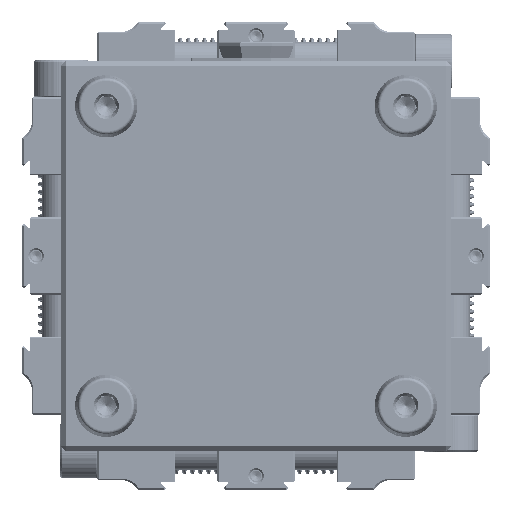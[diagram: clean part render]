
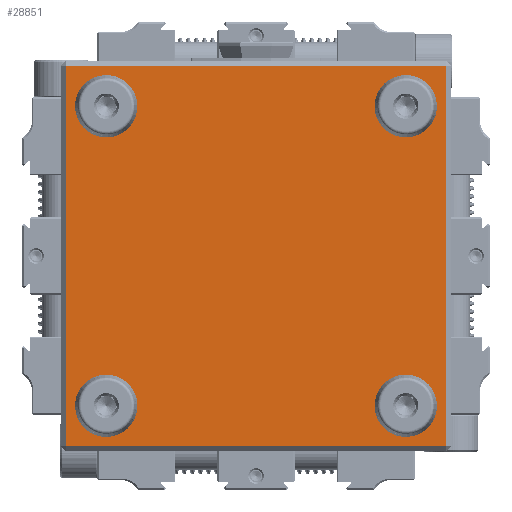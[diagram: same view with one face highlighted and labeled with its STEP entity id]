
A CAD part, front view. The second image highlights one B-rep face of the part: STEP entity #28851.
In plain terms, the highlighted planar face has unit normal (0, -1, 0).
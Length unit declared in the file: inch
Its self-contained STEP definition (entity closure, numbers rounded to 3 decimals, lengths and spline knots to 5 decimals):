
#157 = DIRECTION ( 'NONE',  ( 0., 0., -1. ) ) ;
#269 = CARTESIAN_POINT ( 'NONE',  ( -2.40063, 0., 2.40063 ) ) ;
#1139 = EDGE_CURVE ( 'NONE', #50091, #3057, #31754, .T. ) ;
#1483 = CARTESIAN_POINT ( 'NONE',  ( 2.40063, 0., 2.40063 ) ) ;
#2443 = VERTEX_POINT ( 'NONE', #7335 ) ;
#3057 = VERTEX_POINT ( 'NONE', #1483 ) ;
#3349 = ORIENTED_EDGE ( 'NONE', *, *, #45777, .F. ) ;
#3853 = CARTESIAN_POINT ( 'NONE',  ( 2.40063, 0., -2.40063 ) ) ;
#3939 = EDGE_CURVE ( 'NONE', #29596, #4861, #25966, .T. ) ;
#4649 = EDGE_CURVE ( 'NONE', #44140, #2443, #36877, .T. ) ;
#4861 = VERTEX_POINT ( 'NONE', #34180 ) ;
#5463 = ORIENTED_EDGE ( 'NONE', *, *, #4649, .F. ) ;
#5802 = LINE ( 'NONE', #49083, #37217 ) ;
#6266 = AXIS2_PLACEMENT_3D ( 'NONE', #21102, #42619, #37519 ) ;
#7335 = CARTESIAN_POINT ( 'NONE',  ( 1.88976, 0., -2.20511 ) ) ;
#7682 = DIRECTION ( 'NONE',  ( 0., 0., -1. ) ) ;
#8999 = EDGE_CURVE ( 'NONE', #4861, #29596, #27143, .T. ) ;
#9426 = AXIS2_PLACEMENT_3D ( 'NONE', #42747, #46738, #33955 ) ;
#10839 = DIRECTION ( 'NONE',  ( -1., 0., 0. ) ) ;
#11475 = CARTESIAN_POINT ( 'NONE',  ( -1.88976, 0., -2.20511 ) ) ;
#11502 = AXIS2_PLACEMENT_3D ( 'NONE', #19811, #32551, #37362 ) ;
#12197 = FACE_BOUND ( 'NONE', #18958, .T. ) ;
#12708 = EDGE_CURVE ( 'NONE', #46591, #50091, #5802, .T. ) ;
#12766 = CARTESIAN_POINT ( 'NONE',  ( 0., 0., 0. ) ) ;
#14101 = CARTESIAN_POINT ( 'NONE',  ( 1.88976, 0., -1.57441 ) ) ;
#14275 = ORIENTED_EDGE ( 'NONE', *, *, #43906, .T. ) ;
#15436 = ORIENTED_EDGE ( 'NONE', *, *, #8999, .F. ) ;
#15514 = EDGE_LOOP ( 'NONE', ( #35270, #22596 ) ) ;
#15757 = VECTOR ( 'NONE', #44749, 39.37008 ) ;
#16222 = LINE ( 'NONE', #33465, #55842 ) ;
#16827 = AXIS2_PLACEMENT_3D ( 'NONE', #50678, #24919, #42182 ) ;
#16849 = DIRECTION ( 'NONE',  ( 0., -1., 0. ) ) ;
#17009 = AXIS2_PLACEMENT_3D ( 'NONE', #55132, #30182, #33569 ) ;
#18958 = EDGE_LOOP ( 'NONE', ( #3349, #5463 ) ) ;
#19056 = CARTESIAN_POINT ( 'NONE',  ( -1.88976, 0., -1.88976 ) ) ;
#19811 = CARTESIAN_POINT ( 'NONE',  ( -1.88976, 0., 1.88976 ) ) ;
#20249 = EDGE_CURVE ( 'NONE', #55146, #40581, #45992, .T. ) ;
#20790 = EDGE_LOOP ( 'NONE', ( #36605, #39550, #14275, #49768 ) ) ;
#21102 = CARTESIAN_POINT ( 'NONE',  ( -1.88976, 0., -1.88976 ) ) ;
#21464 = VERTEX_POINT ( 'NONE', #24026 ) ;
#21664 = CARTESIAN_POINT ( 'NONE',  ( 1.88976, 0., 1.88976 ) ) ;
#22552 = CARTESIAN_POINT ( 'NONE',  ( -1.88976, 0., -1.57441 ) ) ;
#22596 = ORIENTED_EDGE ( 'NONE', *, *, #20249, .F. ) ;
#23358 = ORIENTED_EDGE ( 'NONE', *, *, #3939, .F. ) ;
#23885 = CIRCLE ( 'NONE', #9426, 0.31535 ) ;
#23908 = DIRECTION ( 'NONE',  ( 1., 0., 0. ) ) ;
#23940 = DIRECTION ( 'NONE',  ( 0., 0., -1. ) ) ;
#24026 = CARTESIAN_POINT ( 'NONE',  ( -1.88976, 0., 1.57441 ) ) ;
#24870 = VERTEX_POINT ( 'NONE', #44874 ) ;
#24919 = DIRECTION ( 'NONE',  ( 0., -1., 0. ) ) ;
#25387 = EDGE_LOOP ( 'NONE', ( #23358, #15436 ) ) ;
#25498 = FACE_BOUND ( 'NONE', #26749, .T. ) ;
#25966 = CIRCLE ( 'NONE', #29629, 0.31535 ) ;
#26749 = EDGE_LOOP ( 'NONE', ( #39746, #43410 ) ) ;
#26964 = AXIS2_PLACEMENT_3D ( 'NONE', #19056, #53047, #30228 ) ;
#27143 = CIRCLE ( 'NONE', #28998, 0.31535 ) ;
#28851 = ADVANCED_FACE ( 'NONE', ( #51812, #38223, #29757, #12197, #25498 ), #29464, .T. ) ;
#28998 = AXIS2_PLACEMENT_3D ( 'NONE', #21664, #16849, #157 ) ;
#29464 = PLANE ( 'NONE',  #52051 ) ;
#29596 = VERTEX_POINT ( 'NONE', #52743 ) ;
#29629 = AXIS2_PLACEMENT_3D ( 'NONE', #46316, #53666, #23940 ) ;
#29757 = FACE_BOUND ( 'NONE', #15514, .T. ) ;
#30121 = EDGE_CURVE ( 'NONE', #24870, #21464, #42210, .T. ) ;
#30182 = DIRECTION ( 'NONE',  ( 0., -1., 0. ) ) ;
#30228 = DIRECTION ( 'NONE',  ( 0., 0., -1. ) ) ;
#31125 = EDGE_CURVE ( 'NONE', #3057, #40355, #16222, .T. ) ;
#31754 = LINE ( 'NONE', #49007, #15757 ) ;
#32375 = CARTESIAN_POINT ( 'NONE',  ( -2.40063, 0., -2.40063 ) ) ;
#32551 = DIRECTION ( 'NONE',  ( 0., -1., 0. ) ) ;
#32554 = DIRECTION ( 'NONE',  ( 0., 0., -1. ) ) ;
#33465 = CARTESIAN_POINT ( 'NONE',  ( 0., 0., 2.40063 ) ) ;
#33569 = DIRECTION ( 'NONE',  ( 0., 0., -1. ) ) ;
#33955 = DIRECTION ( 'NONE',  ( 0., 0., -1. ) ) ;
#34180 = CARTESIAN_POINT ( 'NONE',  ( 1.88976, 0., 2.20511 ) ) ;
#35270 = ORIENTED_EDGE ( 'NONE', *, *, #35666, .F. ) ;
#35666 = EDGE_CURVE ( 'NONE', #40581, #55146, #42450, .T. ) ;
#36517 = CARTESIAN_POINT ( 'NONE',  ( -2.40063, 0., 0. ) ) ;
#36605 = ORIENTED_EDGE ( 'NONE', *, *, #1139, .T. ) ;
#36877 = CIRCLE ( 'NONE', #17009, 0.31535 ) ;
#37217 = VECTOR ( 'NONE', #23908, 39.37008 ) ;
#37362 = DIRECTION ( 'NONE',  ( 0., 0., -1. ) ) ;
#37519 = DIRECTION ( 'NONE',  ( 0., 0., -1. ) ) ;
#38223 = FACE_BOUND ( 'NONE', #25387, .T. ) ;
#39550 = ORIENTED_EDGE ( 'NONE', *, *, #31125, .T. ) ;
#39746 = ORIENTED_EDGE ( 'NONE', *, *, #48569, .F. ) ;
#40355 = VERTEX_POINT ( 'NONE', #269 ) ;
#40581 = VERTEX_POINT ( 'NONE', #11475 ) ;
#40759 = LINE ( 'NONE', #36517, #43122 ) ;
#42182 = DIRECTION ( 'NONE',  ( 0., 0., -1. ) ) ;
#42210 = CIRCLE ( 'NONE', #11502, 0.31535 ) ;
#42450 = CIRCLE ( 'NONE', #6266, 0.31535 ) ;
#42619 = DIRECTION ( 'NONE',  ( 0., -1., 0. ) ) ;
#42747 = CARTESIAN_POINT ( 'NONE',  ( 1.88976, 0., -1.88976 ) ) ;
#42757 = DIRECTION ( 'NONE',  ( 0., -1., 0. ) ) ;
#43122 = VECTOR ( 'NONE', #32554, 39.37008 ) ;
#43410 = ORIENTED_EDGE ( 'NONE', *, *, #30121, .F. ) ;
#43906 = EDGE_CURVE ( 'NONE', #40355, #46591, #40759, .T. ) ;
#44140 = VERTEX_POINT ( 'NONE', #14101 ) ;
#44749 = DIRECTION ( 'NONE',  ( 0., 0., 1. ) ) ;
#44874 = CARTESIAN_POINT ( 'NONE',  ( -1.88976, 0., 2.20511 ) ) ;
#45777 = EDGE_CURVE ( 'NONE', #2443, #44140, #23885, .T. ) ;
#45992 = CIRCLE ( 'NONE', #26964, 0.31535 ) ;
#46316 = CARTESIAN_POINT ( 'NONE',  ( 1.88976, 0., 1.88976 ) ) ;
#46591 = VERTEX_POINT ( 'NONE', #32375 ) ;
#46738 = DIRECTION ( 'NONE',  ( 0., -1., 0. ) ) ;
#48438 = CIRCLE ( 'NONE', #16827, 0.31535 ) ;
#48569 = EDGE_CURVE ( 'NONE', #21464, #24870, #48438, .T. ) ;
#49007 = CARTESIAN_POINT ( 'NONE',  ( 2.40063, 0., 0. ) ) ;
#49083 = CARTESIAN_POINT ( 'NONE',  ( 0., 0., -2.40063 ) ) ;
#49768 = ORIENTED_EDGE ( 'NONE', *, *, #12708, .T. ) ;
#50091 = VERTEX_POINT ( 'NONE', #3853 ) ;
#50678 = CARTESIAN_POINT ( 'NONE',  ( -1.88976, 0., 1.88976 ) ) ;
#51812 = FACE_OUTER_BOUND ( 'NONE', #20790, .T. ) ;
#52051 = AXIS2_PLACEMENT_3D ( 'NONE', #12766, #42757, #7682 ) ;
#52743 = CARTESIAN_POINT ( 'NONE',  ( 1.88976, 0., 1.57441 ) ) ;
#53047 = DIRECTION ( 'NONE',  ( 0., -1., 0. ) ) ;
#53666 = DIRECTION ( 'NONE',  ( 0., -1., 0. ) ) ;
#55132 = CARTESIAN_POINT ( 'NONE',  ( 1.88976, 0., -1.88976 ) ) ;
#55146 = VERTEX_POINT ( 'NONE', #22552 ) ;
#55842 = VECTOR ( 'NONE', #10839, 39.37008 ) ;
